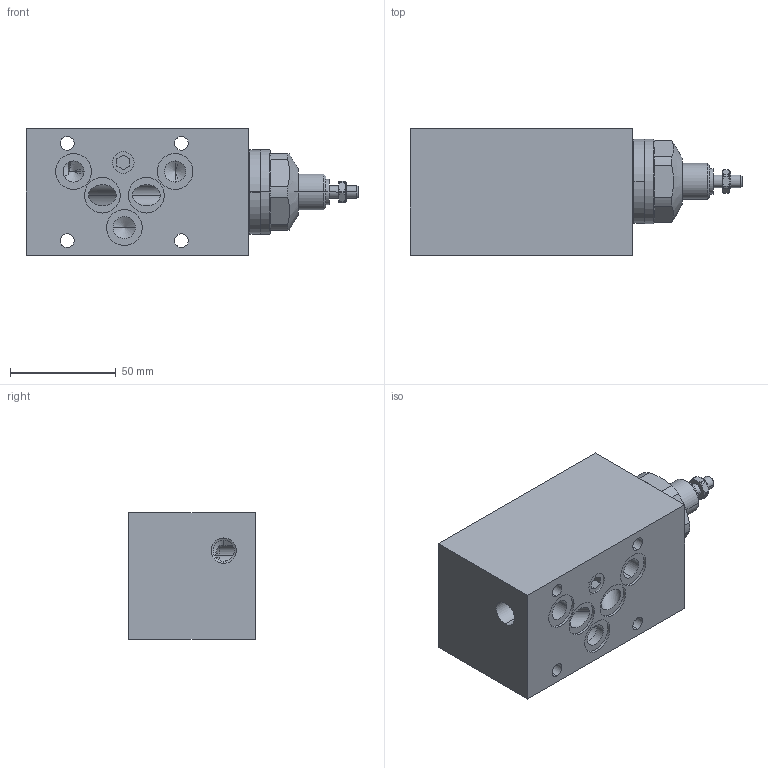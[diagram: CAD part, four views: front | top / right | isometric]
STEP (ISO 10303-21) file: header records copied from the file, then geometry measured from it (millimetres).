
FILE_DESCRIPTION (( 'STEP AP214' ), '1' );
FILE_NAME ('QDSFA06-A_B.STEP', '2017-04-12T13:54:02', ( '' ), ( '' ), 'SwSTEP 2.0', 'SolidWorks 2016', '' );
FILE_SCHEMA (( 'AUTOMOTIVE_DESIGN' ));
Length unit declared in the file: millimetre
Products named in the file (1): QDSFA06-A_B
Bounding box: 157 x 60 x 60 mm (x, y, z)
Volume: 387324.9 mm3; surface area: 47742.9 mm2
Topology: 4 solids, 5 shells, 324 faces, 784 edges, 494 vertices
Faces by surface type: plane 130, cylinder 114, cone 53, bspline 19, torus 8
Entity records: 14246 total; most frequent: CARTESIAN_POINT 3186, DIRECTION 1552, ORIENTED_EDGE 1536, EDGE_CURVE 768, AXIS2_PLACEMENT_3D 592, VERTEX_POINT 494, EDGE_LOOP 376, VECTOR 368
